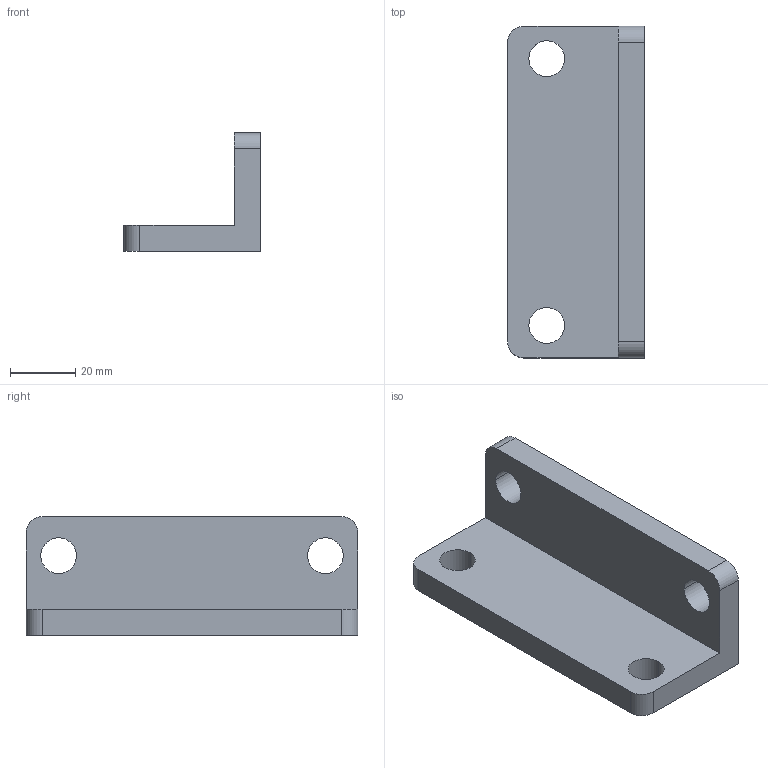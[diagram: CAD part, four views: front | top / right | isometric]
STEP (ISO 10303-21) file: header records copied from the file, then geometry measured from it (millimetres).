
FILE_DESCRIPTION (( 'STEP AP203' ), '1' );
FILE_NAME ('SKP-080.STEP', '2005-09-14T07:19:28', ( 'luigip' ), ( '' ), 'SwSTEP 2.0', 'SolidWorks 2005187', '' );
FILE_SCHEMA (( 'CONFIG_CONTROL_DESIGN' ));
Length unit declared in the file: millimetre
Products named in the file (1): SKP-080
Bounding box: 42 x 102 x 36.5 mm (x, y, z)
Volume: 54315.3 mm3; surface area: 17376 mm2
Topology: 1 solids, 1 shells, 20 faces, 54 edges, 36 vertices
Faces by surface type: cylinder 12, plane 8
Entity records: 735 total; most frequent: DIRECTION 120, CARTESIAN_POINT 111, ORIENTED_EDGE 108, EDGE_CURVE 54, AXIS2_PLACEMENT_3D 45, VERTEX_POINT 36, VECTOR 30, LINE 30
